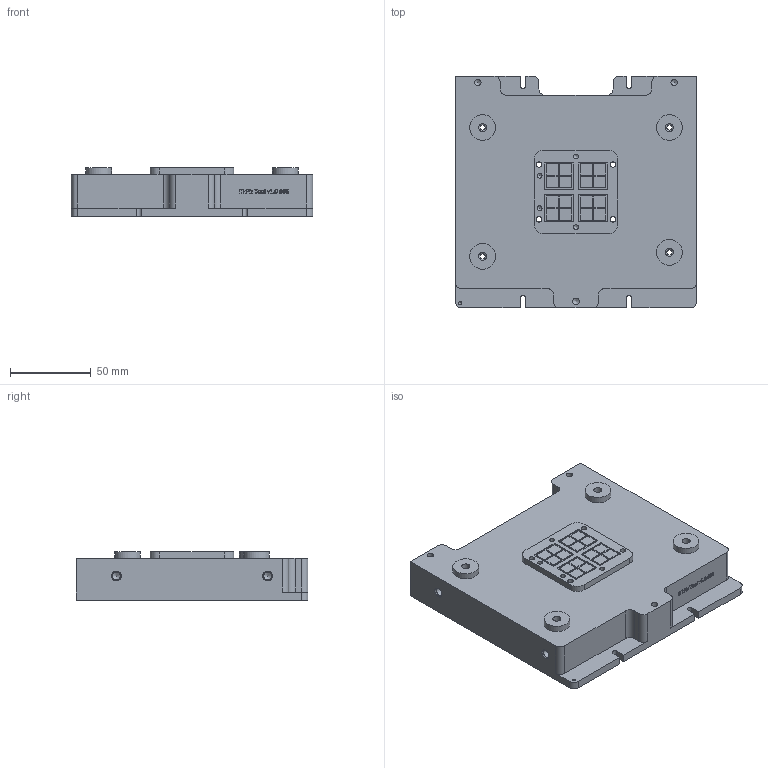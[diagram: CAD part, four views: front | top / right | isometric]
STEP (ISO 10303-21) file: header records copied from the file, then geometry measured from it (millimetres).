
FILE_DESCRIPTION(/* description */ ('Base Body'),/* implementation_level */ '2;1');
FILE_NAME(/* name */ 'ITPT.01.00.001.stp',/* time_stamp */ '2025-02-12T14:27:10+01:00',/* author */ ('Rüdiger Widera'),/* organization */ (''),/* preprocessor_version */ 'ST-DEVELOPER v19.2',/* originating_system */ 'Autodesk Inventor 2024',/* authorisation */ '');
FILE_SCHEMA (('AUTOMOTIVE_DESIGN { 1 0 10303 214 3 1 1 }'));
Length unit declared in the file: millimetre
Products named in the file (1): ITPT.01.00.001
Bounding box: 150 x 144 x 30 mm (x, y, z)
Volume: 456566.5 mm3; surface area: 69480.8 mm2
Topology: 1 solids, 1 shells, 508 faces, 1355 edges, 893 vertices
Faces by surface type: plane 249, bspline 134, cylinder 87, cone 38
Full cylindrical faces by diameter (mm): 1.5 x4, 3 x4, 3.242 x6, 3.4 x8, 4 x4, 4.917 x4, 5 x4, 6.5 x4, 8.566 x1, 16 x4, 40 x1, 44 x1, 51 x1, 70 x1
Entity records: 18435 total; most frequent: CARTESIAN_POINT 6410, ORIENTED_EDGE 2672, DIRECTION 2042, EDGE_CURVE 1336, VERTEX_POINT 890, LINE 842, VECTOR 842, AXIS2_PLACEMENT_3D 600
